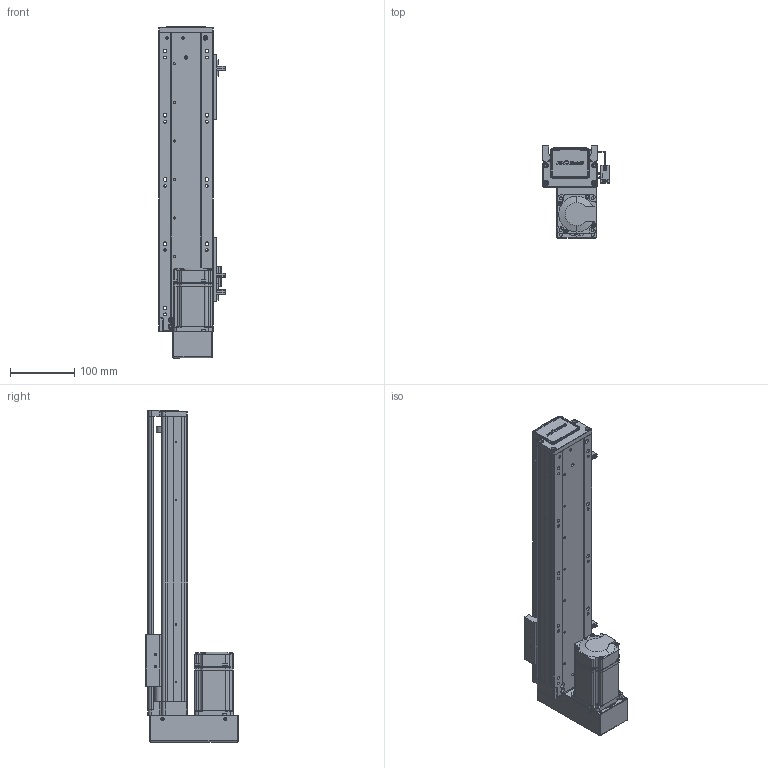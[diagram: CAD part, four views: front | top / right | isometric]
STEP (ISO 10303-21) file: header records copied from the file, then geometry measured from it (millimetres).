
FILE_DESCRIPTION (( 'STEP AP203' ), '1' );
FILE_NAME ('RY80-L1620-300-BK.SLDASM_300.step', '2021-02-20T07:10:12', ( '盈信电脑' ), ( '东莞市道滘镇水果街19号' ), 'SwSTEP 2.0', 'SolidWorks 2012', '' );
FILE_SCHEMA (( 'CONFIG_CONTROL_DESIGN' ));
Length unit declared in the file: millimetre
Products named in the file (15): RY80-L1620-300-BK.SLDASM_300; 滅袉蝶18-24; RY80狟殏俋欶; 1; 侂狟200W萇儂; RY80狟殏萇儂假蚾啣; RY80俋离覜茼え; T倰羞; RY80转接电机端支撑座; 覜茼ん672; RY80綴裔啣; RY80-300蛌諉倰第奻裔啣-BK; 滅袉蝶18-10; RY80臏賑輸; RY80-300蛌諉倰第菁釱-BK
Assembly tree (17 placements, depth 3):
  RY80-L1620-300-BK.SLDASM_300
    RY80-300蛌諉倰第菁釱-BK
    RY80臏賑輸
    RY80-300蛌諉倰第奻裔啣-BK
    RY80綴裔啣
    滅袉蝶18-10
    T倰羞  x2
    覜茼ん672  x3
    RY80俋离覜茼え
    RY80转接电机端支撑座
    侂狟200W萇儂
      1
    RY80狟殏萇儂假蚾啣
    RY80狟殏俋欶
    滅袉蝶18-24
Bounding box: 103.7 x 144 x 517 mm (x, y, z)
Volume: 1226619.9 mm3; surface area: 456884.1 mm2
Topology: 16 solids, 16 shells, 2093 faces, 5759 edges, 3731 vertices
Faces by surface type: plane 1156, cylinder 742, cone 133, bspline 62
Entity records: 66059 total; most frequent: CARTESIAN_POINT 16642, ORIENTED_EDGE 10214, DIRECTION 9538, EDGE_CURVE 5107, VERTEX_POINT 3347, VECTOR 3208, LINE 3208, AXIS2_PLACEMENT_3D 3165
